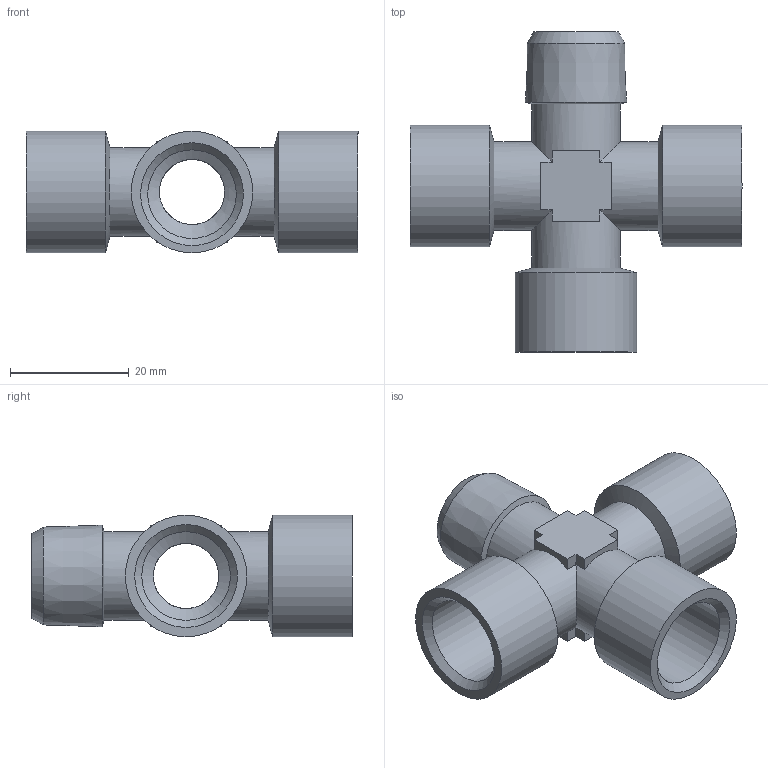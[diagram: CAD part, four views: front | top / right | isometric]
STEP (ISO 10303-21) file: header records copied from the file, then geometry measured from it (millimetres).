
FILE_DESCRIPTION (( 'STEP AP214' ), '1' );
FILE_NAME ('0602500010400A.STEP', '2013-08-08T05:55:59', ( 'ST01' ), ( '' ), 'SwSTEP 2.0', 'SolidWorks 2012', '' );
FILE_SCHEMA (( 'AUTOMOTIVE_DESIGN' ));
Length unit declared in the file: millimetre
Products named in the file (1): 0602500010400A
Bounding box: 56 x 54 x 20.5 mm (x, y, z)
Volume: 11611.4 mm3; surface area: 9963.2 mm2
Topology: 1 solids, 1 shells, 57 faces, 149 edges, 92 vertices
Faces by surface type: plane 30, cylinder 14, cone 13
Full cylindrical faces by diameter (mm): 11 x4, 14.95 x3, 15 x4, 20.5 x3
Entity records: 1575 total; most frequent: CARTESIAN_POINT 346, DIRECTION 248, ORIENTED_EDGE 214, EDGE_CURVE 107, AXIS2_PLACEMENT_3D 92, EDGE_LOOP 88, VERTEX_POINT 77, FACE_OUTER_BOUND 71
